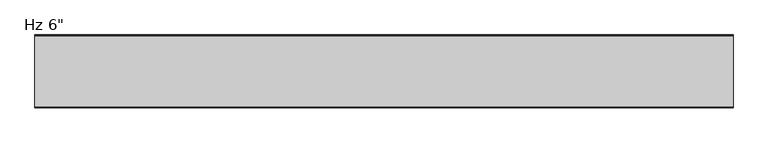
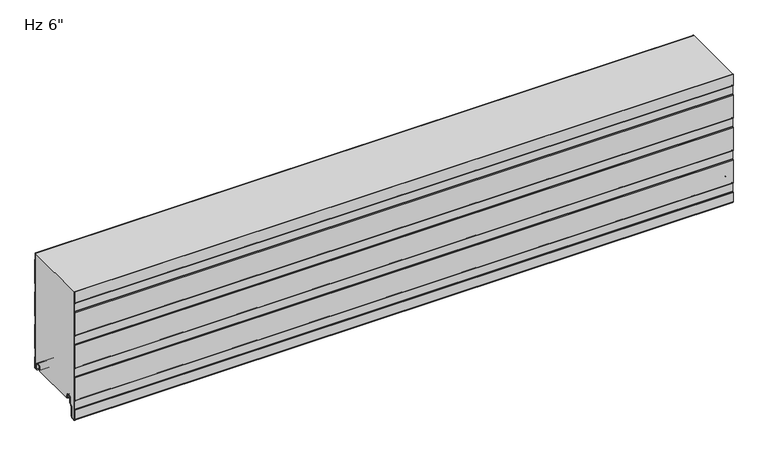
"""IFC4 building model written with IfcOpenShell, lengths in millimetres: plate geometry."""

from ifc_helpers import new_model, si_unit, point, frame, frame_2d, origin, place, context, project, spatial, polyline, circle_curve, trimmed, segment, composite_curve, outline, extrude, source, transform, mapped, element, save
from ifc_brep_helpers import plane_surface, cylinder_surface, revolved_surface, advanced_brep


def plate_6111810e(model_context):
    return source(origin(), model_context, "Body", "SolidModel", [
        advanced_brep(
        [(-730.0, -17.0015159, 2.0313088), (-730.0, -18.0015191, 1.0313116), (-730.0, -19.0015105, 2.0313088), (-730.0, -19.0015105, 6.0315125), (-730.0, -18.0015159, 6.0315125), (-730.0, -18.0015159, 8.7237223), (-730.0, -14.7015202, 12.023718), (-730.0, -10.301529, 12.023718), (-730.0, -7.0015335, 8.7237225), (-730.0, -7.0015335, -1.6962564), (-730.0, -5.2315393, -3.4662506), (-730.0, -0.9999916, -3.4662506), (-730.0, -0.9999916, 21.034026), (-730.0, -2.2002307, 22.4196686), (-730.0, -2.2002307, 41.7948349), (-730.0, -1.0, 43.1804679), (-730.0, -1.0, 97.2338833), (-730.0, -2.2002307, 98.6195162), (-730.0, -2.2002307, 117.9946825), (-730.0, -1.0, 119.3803155), (-730.0, -1.0, 173.4337309), (-730.0, -2.2002307, 174.8193638), (-730.0, -2.2002307, 194.1945301), (-730.0, -1.0, 195.5801631), (-730.0, -1.0, 249.6335785), (-730.0, -2.2002307, 251.0192114), (-730.0, -2.2002307, 266.4), (-730.0, -1.2002307, 266.4), (-730.0, -1.2002307, 251.3920919), (-730.0, -0.3417885, 250.4010442), (-730.0, 0.0, 249.4844273), (-730.0, 0.0, 195.7293142), (-730.0, -0.3417885, 194.8126973), (-730.0, -1.2002307, 193.8216497), (-730.0, -1.2002307, 175.1922443), (-730.0, -0.3417885, 174.2011966), (-730.0, 0.0, 173.2845797), (-730.0, 0.0, 119.5294666), (-730.0, -0.3417885, 118.6128497), (-730.0, -1.2002307, 117.6218021), (-730.0, -1.2002307, 98.9923967), (-730.0, -0.3417885, 98.001349), (-730.0, 0.0, 97.0847321), (-730.0, 0.0, 43.329619), (-730.0, -0.3417885, 42.4130021), (-730.0, -1.2002307, 41.4219545), (-730.0, -1.2002307, 22.7925491), (-730.0, -0.3417885, 21.8015014), (-730.0, 0.0, 20.8847931), (-730.0, 8.4e-06, -3.0662545), (-730.0, -1.3999878, -4.4662506), (-730.0, -5.2315393, -4.4662506), (-730.0, -8.0015335, -1.6962564), (-730.0, -8.0015335, 8.7237225), (-730.0, -10.301529, 11.023718), (-730.0, -14.7015202, 11.023718), (-730.0, -17.0015159, 8.7237223), (730.0, -17.0015159, 2.0313088), (730.0, -17.0015159, 8.7237223), (730.0, -14.7015202, 11.023718), (730.0, -10.301529, 11.023718), (730.0, -8.0015335, 8.7237225), (730.0, -8.0015335, -1.6962564), (730.0, -5.2315393, -4.4662506), (730.0, -1.3999878, -4.4662506), (730.0, 8.4e-06, -3.0662545), (730.0, 8.4e-06, 20.8848845), (730.0, -0.3417885, 21.8015014), (730.0, -1.2002307, 22.7925491), (730.0, -1.2002307, 41.4219545), (730.0, -0.3417885, 42.4130021), (730.0, 0.0, 43.329619), (730.0, 0.0, 97.0847321), (730.0, -0.3417885, 98.001349), (730.0, -1.2002307, 98.9923967), (730.0, -1.2002307, 117.6218021), (730.0, -0.3417885, 118.6128497), (730.0, 0.0, 119.5294666), (730.0, 0.0, 173.2845797), (730.0, -0.3417885, 174.2011966), (730.0, -1.2002307, 175.1922443), (730.0, -1.2002307, 193.8216497), (730.0, -0.3417885, 194.8126973), (730.0, 0.0, 195.7293142), (730.0, 0.0, 249.4844273), (730.0, -0.3417885, 250.4010442), (730.0, -1.2002307, 251.3920919), (730.0, -1.2002307, 266.4), (730.0, -2.2002307, 266.4), (730.0, -2.2002307, 251.0192114), (730.0, -1.0, 249.6335785), (730.0, -1.0, 195.5801631), (730.0, -2.2002307, 194.1945301), (730.0, -2.2002307, 174.8193638), (730.0, -1.0, 173.4337309), (730.0, -1.0, 119.3803155), (730.0, -2.2002307, 117.9946825), (730.0, -2.2002307, 98.6195162), (730.0, -1.0, 97.2338833), (730.0, -1.0, 43.1804679), (730.0, -2.2002307, 41.7948349), (730.0, -2.2002307, 22.4196686), (730.0, -0.9999916, 21.034026), (730.0, -0.9999916, -3.4662506), (730.0, -5.2315393, -3.4662506), (730.0, -7.0015335, -1.6962564), (730.0, -7.0015335, 8.7237225), (730.0, -10.301529, 12.023718), (730.0, -14.7015202, 12.023718), (730.0, -18.0015159, 8.7237223), (730.0, -18.0015159, 6.0315125), (730.0, -19.0015105, 6.0315125), (730.0, -19.0015105, 2.0313088), (730.0, -18.0015192, 1.0313116)],
        [
            (0, 1, circle_curve(frame((-730.0, -18.0015132, 2.0313088), z_axis=(-1.0, 0.0, 0.0), x_axis=(0.0, 0.0, 1.0)), 0.9999973)),
            (1, 2, circle_curve(frame((-730.0, -18.0015133, 2.0313088), z_axis=(-1.0, 0.0, 0.0), x_axis=(0.0, 0.0, 1.0)), 0.9999972)),
            (2, 3),
            (3, 4),
            (4, 5),
            (5, 6, circle_curve(frame((-730.0, -14.7015202, 8.7237223), z_axis=(-1.0, 0.0, 0.0), x_axis=(0.0, 0.0, 1.0)), 3.2999957)),
            (6, 7),
            (7, 8, circle_curve(frame((-730.0, -10.301529, 8.7237225), z_axis=(-1.0, 0.0, 0.0), x_axis=(0.0, 0.0, 1.0)), 3.2999955)),
            (8, 9),
            (9, 10, circle_curve(frame((-730.0, -5.2315393, -1.6962564), z_axis=(1.0, 0.0, 0.0), x_axis=(0.0, 0.0, 1.0)), 1.7699942)),
            (10, 11),
            (11, 12),
            (12, 13),
            (13, 14),
            (14, 15),
            (15, 16),
            (16, 17),
            (17, 18),
            (18, 19),
            (19, 20),
            (20, 21),
            (21, 22),
            (22, 23),
            (23, 24),
            (24, 25),
            (25, 26),
            (26, 27),
            (27, 28),
            (28, 29),
            (29, 30, circle_curve(frame((-730.0, -1.3999972, 249.4844273), z_axis=(-1.0, 0.0, 0.0), x_axis=(0.0, 0.0, 1.0)), 1.3999972)),
            (30, 31),
            (31, 32, circle_curve(frame((-730.0, -1.3999972, 195.7293142), z_axis=(-1.0, 0.0, 0.0), x_axis=(0.0, 0.0, 1.0)), 1.3999972)),
            (32, 33),
            (33, 34),
            (34, 35),
            (35, 36, circle_curve(frame((-730.0, -1.3999972, 173.2845797), z_axis=(-1.0, 0.0, 0.0), x_axis=(0.0, 0.0, 1.0)), 1.3999972)),
            (36, 37),
            (37, 38, circle_curve(frame((-730.0, -1.3999972, 119.5294666), z_axis=(-1.0, 0.0, 0.0), x_axis=(0.0, 0.0, 1.0)), 1.3999972)),
            (38, 39),
            (39, 40),
            (40, 41),
            (41, 42, circle_curve(frame((-730.0, -1.3999972, 97.0847321), z_axis=(-1.0, 0.0, 0.0), x_axis=(0.0, 0.0, 1.0)), 1.3999972)),
            (42, 43),
            (43, 44, circle_curve(frame((-730.0, -1.3999972, 43.329619), z_axis=(-1.0, 0.0, 0.0), x_axis=(0.0, 0.0, 1.0)), 1.3999972)),
            (44, 45),
            (45, 46),
            (46, 47),
            (47, 48, circle_curve(frame((-730.0, -1.3999972, 20.8848845), z_axis=(-1.0, 0.0, 0.0), x_axis=(0.0, 0.0, 1.0)), 1.3999972)),
            (48, 49),
            (49, 50, circle_curve(frame((-730.0, -1.3999878, -3.0662545), z_axis=(-1.0, 0.0, 0.0), x_axis=(0.0, 0.0, 1.0)), 1.3999962)),
            (50, 51),
            (51, 52, circle_curve(frame((-730.0, -5.2315393, -1.6962564), z_axis=(-1.0, 0.0, 0.0), x_axis=(0.0, 0.0, 1.0)), 2.7699942)),
            (52, 53),
            (53, 54, circle_curve(frame((-730.0, -10.301529, 8.7237225), z_axis=(1.0, 0.0, 0.0), x_axis=(0.0, 0.0, 1.0)), 2.2999955)),
            (54, 55),
            (55, 56, circle_curve(frame((-730.0, -14.7015202, 8.7237223), z_axis=(1.0, 0.0, 0.0), x_axis=(0.0, 0.0, 1.0)), 2.2999957)),
            (56, 0),
            (57, 58),
            (58, 59, circle_curve(frame((730.0, -14.7015202, 8.7237223), z_axis=(-1.0, 0.0, 0.0), x_axis=(0.0, 0.0, 1.0)), 2.2999957)),
            (59, 60),
            (60, 61, circle_curve(frame((730.0, -10.301529, 8.7237225), z_axis=(-1.0, 0.0, 0.0), x_axis=(0.0, 0.0, 1.0)), 2.2999955)),
            (61, 62),
            (62, 63, circle_curve(frame((730.0, -5.2315393, -1.6962564), z_axis=(1.0, 0.0, 0.0), x_axis=(0.0, 0.0, 1.0)), 2.7699942)),
            (63, 64),
            (64, 65, circle_curve(frame((730.0, -1.3999878, -3.0662545), z_axis=(1.0, 0.0, 0.0), x_axis=(0.0, 0.0, 1.0)), 1.3999962)),
            (65, 66),
            (66, 67, circle_curve(frame((730.0, -1.3999972, 20.8848845), z_axis=(1.0, 0.0, 0.0), x_axis=(0.0, 0.0, 1.0)), 1.3999972)),
            (67, 68),
            (68, 69),
            (69, 70),
            (70, 71, circle_curve(frame((730.0, -1.3999972, 43.329619), z_axis=(1.0, 0.0, 0.0), x_axis=(0.0, 0.0, 1.0)), 1.3999972)),
            (71, 72),
            (72, 73, circle_curve(frame((730.0, -1.3999972, 97.0847321), z_axis=(1.0, 0.0, 0.0), x_axis=(0.0, 0.0, 1.0)), 1.3999972)),
            (73, 74),
            (74, 75),
            (75, 76),
            (76, 77, circle_curve(frame((730.0, -1.3999972, 119.5294666), z_axis=(1.0, 0.0, 0.0), x_axis=(0.0, 0.0, 1.0)), 1.3999972)),
            (77, 78),
            (78, 79, circle_curve(frame((730.0, -1.3999972, 173.2845797), z_axis=(1.0, 0.0, 0.0), x_axis=(0.0, 0.0, 1.0)), 1.3999972)),
            (79, 80),
            (80, 81),
            (81, 82),
            (82, 83, circle_curve(frame((730.0, -1.3999972, 195.7293142), z_axis=(1.0, 0.0, 0.0), x_axis=(0.0, 0.0, 1.0)), 1.3999972)),
            (83, 84),
            (84, 85, circle_curve(frame((730.0, -1.3999972, 249.4844273), z_axis=(1.0, 0.0, 0.0), x_axis=(0.0, 0.0, 1.0)), 1.3999972)),
            (85, 86),
            (86, 87),
            (87, 88),
            (88, 89),
            (89, 90),
            (90, 91),
            (91, 92),
            (92, 93),
            (93, 94),
            (94, 95),
            (95, 96),
            (96, 97),
            (97, 98),
            (98, 99),
            (99, 100),
            (100, 101),
            (101, 102),
            (102, 103),
            (103, 104),
            (104, 105, circle_curve(frame((730.0, -5.2315393, -1.6962564), z_axis=(-1.0, 0.0, 0.0), x_axis=(0.0, 0.0, 1.0)), 1.7699942)),
            (105, 106),
            (106, 107, circle_curve(frame((730.0, -10.301529, 8.7237225), z_axis=(1.0, 0.0, 0.0), x_axis=(0.0, 0.0, 1.0)), 3.2999955)),
            (107, 108),
            (108, 109, circle_curve(frame((730.0, -14.7015202, 8.7237223), z_axis=(1.0, 0.0, 0.0), x_axis=(0.0, 0.0, 1.0)), 3.2999957)),
            (109, 110),
            (110, 111),
            (111, 112),
            (112, 113, circle_curve(frame((730.0, -18.0015133, 2.0313088), z_axis=(1.0, 0.0, 0.0), x_axis=(0.0, 0.0, 1.0)), 0.9999972)),
            (113, 57, circle_curve(frame((730.0, -18.0015132, 2.0313088), z_axis=(1.0, 0.0, 0.0), x_axis=(0.0, 0.0, 1.0)), 0.9999973)),
            (26, 88),
            (87, 27),
            (56, 58),
            (57, 0),
            (55, 59),
            (54, 60),
            (53, 61),
            (52, 62),
            (51, 63),
            (50, 64),
            (49, 65),
            (48, 66),
            (47, 67),
            (46, 68),
            (45, 69),
            (44, 70),
            (43, 71),
            (42, 72),
            (41, 73),
            (40, 74),
            (39, 75),
            (38, 76),
            (37, 77),
            (36, 78),
            (19, 95),
            (94, 20),
            (18, 96),
            (17, 97),
            (16, 98),
            (15, 99),
            (14, 100),
            (13, 101),
            (12, 102),
            (11, 103),
            (10, 104),
            (9, 105),
            (8, 106),
            (7, 107),
            (6, 108),
            (5, 109),
            (4, 110),
            (3, 111),
            (2, 112),
            (1, 113),
            (35, 79),
            (34, 80),
            (33, 81),
            (32, 82),
            (31, 83),
            (30, 84),
            (29, 85),
            (28, 86),
            (25, 89),
            (24, 90),
            (23, 91),
            (22, 92),
            (21, 93),
        ],
        [
            plane_surface(frame((-730.0, 0.0, 533.4), z_axis=(-1.0, 0.0, 0.0), x_axis=(0.0, 1.0, 0.0))),
            plane_surface(frame((730.0, 0.0, 533.4), z_axis=(1.0, 0.0, 0.0), x_axis=(0.0, 1.0, 0.0))),
            plane_surface(frame((730.0, 10.0, 266.4), z_axis=(0.0, 0.0, 1.0), x_axis=(-1.0, 0.0, 0.0))),
            plane_surface(frame((-730.0, -17.0015159, 2.0313088), z_axis=(0.0, 1.0, 0.0), x_axis=(1.0, 0.0, 0.0))),
            revolved_surface(polyline([(730.0, -14.7015202, 11.023718), (-730.0, -14.7015202, 11.023718)]), (-730.0, -14.7015202, 8.7237223), (1.0, 0.0, 0.0)),
            plane_surface(frame((-730.0, -14.7015202, 11.023718), z_axis=(0.0, 0.0, -1.0), x_axis=(1.0, 0.0, 0.0))),
            revolved_surface(polyline([(730.0, -10.301529, 11.023717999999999), (-730.0, -10.301529, 11.023717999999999)]), (-730.0, -10.301529, 8.7237225), (1.0, 0.0, 0.0)),
            plane_surface(frame((-730.0, -8.0015335, 8.7237225), z_axis=(0.0, -1.0, 0.0), x_axis=(1.0, 0.0, 0.0))),
            cylinder_surface(frame((-730.0, -5.2315393, -1.6962564), z_axis=(-1.0, 0.0, 0.0), x_axis=(0.0, 0.0, 1.0)), 2.7699942),
            plane_surface(frame((-730.0, -5.2315393, -4.4662506), z_axis=(0.0, 0.0, -1.0), x_axis=(1.0, 0.0, 0.0))),
            cylinder_surface(frame((-730.0, -1.3999878, -3.0662545), z_axis=(-1.0, 0.0, 0.0), x_axis=(0.0, 0.0, 1.0)), 1.3999962),
            plane_surface(frame((-730.0, 8.4e-06, -3.0662545), z_axis=(0.0, 1.0, 0.0), x_axis=(1.0, 0.0, 0.0))),
            cylinder_surface(frame((-730.0, -1.3999972, 20.8848845), z_axis=(-1.0, 0.0, 0.0), x_axis=(0.0, 0.0, 1.0)), 1.3999972),
            plane_surface(frame((-730.0, -0.3417885, 21.8015014), z_axis=(0.0, 0.755864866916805, 0.6547276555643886), x_axis=(1.0, 0.0, 0.0))),
            plane_surface(frame((-730.0, -1.2002307, 32.1072518), z_axis=(0.0, 1.0, 0.0), x_axis=(1.0, 0.0, 0.0))),
            plane_surface(frame((-730.0, -1.2002307, 41.4219545), z_axis=(0.0, 0.755864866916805, -0.6547276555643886), x_axis=(1.0, 0.0, 0.0))),
            cylinder_surface(frame((-730.0, -1.3999972, 43.329619), z_axis=(-1.0, 0.0, 0.0), x_axis=(0.0, 0.0, 1.0)), 1.3999972),
            plane_surface(frame((-730.0, 0.0, 43.329619), z_axis=(0.0, 1.0, 0.0), x_axis=(1.0, 0.0, 0.0))),
            cylinder_surface(frame((-730.0, -1.3999972, 97.0847321), z_axis=(-1.0, 0.0, 0.0), x_axis=(0.0, 0.0, 1.0)), 1.3999972),
            plane_surface(frame((-730.0, -0.3417885, 98.001349), z_axis=(0.0, 0.755864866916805, 0.6547276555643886), x_axis=(1.0, 0.0, 0.0))),
            plane_surface(frame((-730.0, -1.2002307, 108.3070994), z_axis=(0.0, 1.0, 0.0), x_axis=(1.0, 0.0, 0.0))),
            plane_surface(frame((-730.0, -1.2002307, 117.6218021), z_axis=(0.0, 0.755864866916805, -0.6547276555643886), x_axis=(1.0, 0.0, 0.0))),
            cylinder_surface(frame((-730.0, -1.3999972, 119.5294666), z_axis=(-1.0, 0.0, 0.0), x_axis=(0.0, 0.0, 1.0)), 1.3999972),
            plane_surface(frame((-730.0, 0.0, 119.5294666), z_axis=(0.0, 1.0, 0.0), x_axis=(1.0, 0.0, 0.0))),
            plane_surface(frame((-730.0, -1.0, 173.4337309), z_axis=(0.0, -1.0, 0.0), x_axis=(1.0, 0.0, 0.0))),
            plane_surface(frame((-730.0, -1.0, 119.3803155), z_axis=(0.0, -0.755864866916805, 0.6547276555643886), x_axis=(1.0, 0.0, 0.0))),
            plane_surface(frame((-730.0, -2.2002307, 117.9946825), z_axis=(0.0, -1.0, 0.0), x_axis=(1.0, 0.0, 0.0))),
            plane_surface(frame((-730.0, -2.2002307, 98.6195162), z_axis=(0.0, -0.755864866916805, -0.6547276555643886), x_axis=(1.0, 0.0, 0.0))),
            plane_surface(frame((-730.0, -1.0, 97.2338833), z_axis=(0.0, -1.0, 0.0), x_axis=(1.0, 0.0, 0.0))),
            plane_surface(frame((-730.0, -1.0, 43.1804679), z_axis=(0.0, -0.755864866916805, 0.6547276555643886), x_axis=(1.0, 0.0, 0.0))),
            plane_surface(frame((-730.0, -2.2002307, 41.7948349), z_axis=(0.0, -1.0, 0.0), x_axis=(1.0, 0.0, 0.0))),
            plane_surface(frame((-730.0, -2.2002307, 22.4196686), z_axis=(0.0, -0.755864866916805, -0.6547276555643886), x_axis=(1.0, 0.0, 0.0))),
            plane_surface(frame((-730.0, -0.9999916, 21.034026), z_axis=(0.0, -1.0, 0.0), x_axis=(1.0, 0.0, 0.0))),
            plane_surface(frame((-730.0, -0.9999916, -3.4662506), z_axis=(0.0, 0.0, 1.0), x_axis=(1.0, 0.0, 0.0))),
            revolved_surface(polyline([(730.0, -5.2315393, 0.07373779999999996), (-730.0, -5.2315393, 0.07373779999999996)]), (-730.0, -5.2315393, -1.6962564), (1.0, 0.0, 0.0)),
            plane_surface(frame((-730.0, -7.0015335, -1.6962564), z_axis=(0.0, 1.0, 0.0), x_axis=(1.0, 0.0, 0.0))),
            cylinder_surface(frame((-730.0, -10.301529, 8.7237225), z_axis=(-1.0, 0.0, 0.0), x_axis=(0.0, 0.0, 1.0)), 3.2999955),
            plane_surface(frame((-730.0, -10.301529, 12.023718), z_axis=(0.0, 0.0, 1.0), x_axis=(1.0, 0.0, 0.0))),
            cylinder_surface(frame((-730.0, -14.7015202, 8.7237223), z_axis=(-1.0, 0.0, 0.0), x_axis=(0.0, 0.0, 1.0)), 3.2999957),
            plane_surface(frame((-730.0, -18.0015159, 8.7237223), z_axis=(0.0, -1.0, 0.0), x_axis=(1.0, 0.0, 0.0))),
            plane_surface(frame((-730.0, -18.0015159, 6.0315125), z_axis=(0.0, 0.0, 1.0), x_axis=(1.0, 0.0, 0.0))),
            plane_surface(frame((-730.0, -19.0015105, 6.0315125), z_axis=(0.0, -1.0, 0.0), x_axis=(1.0, 0.0, 0.0))),
            cylinder_surface(frame((-730.0, -18.0015133, 2.0313088), z_axis=(-1.0, 0.0, 0.0), x_axis=(0.0, 0.0, 1.0)), 0.9999972),
            cylinder_surface(frame((-730.0, -18.0015132, 2.0313088), z_axis=(-1.0, 0.0, 0.0), x_axis=(0.0, 0.0, 1.0)), 0.9999973),
            cylinder_surface(frame((-730.0, -1.3999972, 173.2845797), z_axis=(-1.0, 0.0, 0.0), x_axis=(0.0, 0.0, 1.0)), 1.3999972),
            plane_surface(frame((-730.0, -0.3417885, 174.2011966), z_axis=(0.0, 0.755864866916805, 0.6547276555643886), x_axis=(1.0, 0.0, 0.0))),
            plane_surface(frame((-730.0, -1.2002307, 184.506947), z_axis=(0.0, 1.0, 0.0), x_axis=(1.0, 0.0, 0.0))),
            plane_surface(frame((-730.0, -1.2002307, 193.8216497), z_axis=(0.0, 0.755864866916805, -0.6547276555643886), x_axis=(1.0, 0.0, 0.0))),
            cylinder_surface(frame((-730.0, -1.3999972, 195.7293142), z_axis=(-1.0, 0.0, 0.0), x_axis=(0.0, 0.0, 1.0)), 1.3999972),
            plane_surface(frame((-730.0, 0.0, 195.7293142), z_axis=(0.0, 1.0, 0.0), x_axis=(1.0, 0.0, 0.0))),
            cylinder_surface(frame((-730.0, -1.3999972, 249.4844273), z_axis=(-1.0, 0.0, 0.0), x_axis=(0.0, 0.0, 1.0)), 1.3999972),
            plane_surface(frame((-730.0, -0.3417885, 250.4010442), z_axis=(0.0, 0.755864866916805, 0.6547276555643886), x_axis=(1.0, 0.0, 0.0))),
            plane_surface(frame((-730.0, -1.2002307, 260.7067946), z_axis=(0.0, 1.0, 0.0), x_axis=(1.0, 0.0, 0.0))),
            plane_surface(frame((-730.0, -2.2002307, 270.3943777), z_axis=(0.0, -1.0, 0.0), x_axis=(1.0, 0.0, 0.0))),
            plane_surface(frame((-730.0, -2.2002307, 251.0192114), z_axis=(0.0, -0.755864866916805, -0.6547276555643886), x_axis=(1.0, 0.0, 0.0))),
            plane_surface(frame((-730.0, -1.0, 249.6335785), z_axis=(0.0, -1.0, 0.0), x_axis=(1.0, 0.0, 0.0))),
            plane_surface(frame((-730.0, -1.0, 195.5801631), z_axis=(0.0, -0.755864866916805, 0.6547276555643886), x_axis=(1.0, 0.0, 0.0))),
            plane_surface(frame((-730.0, -2.2002307, 194.1945301), z_axis=(0.0, -1.0, 0.0), x_axis=(1.0, 0.0, 0.0))),
            plane_surface(frame((-730.0, -2.2002307, 174.8193638), z_axis=(0.0, -0.755864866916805, -0.6547276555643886), x_axis=(1.0, 0.0, 0.0))),
        ],
        [
            (0, [[1, 2, 3, 4, 5, 6, 7, 8, 9, 10, 11, 12, 13, 14, 15, 16, 17, 18, 19, 20, 21, 22, 23, 24, 25, 26, 27, 28, 29, 30, 31, 32, 33, 34, 35, 36, 37, 38, 39, 40, 41, 42, 43, 44, 45, 46, 47, 48, 49, 50, 51, 52, 53, 54, 55, 56, 57]]),
            (1, [[58, 59, 60, 61, 62, 63, 64, 65, 66, 67, 68, 69, 70, 71, 72, 73, 74, 75, 76, 77, 78, 79, 80, 81, 82, 83, 84, 85, 86, 87, 88, 89, 90, 91, 92, 93, 94, 95, 96, 97, 98, 99, 100, 101, 102, 103, 104, 105, 106, 107, 108, 109, 110, 111, 112, 113, 114]]),
            (2, [[115, -88, 116, -27]]),
            (3, [[117, -58, 118, -57]]),
            (4, [[119, -59, -117, -56]]),
            (5, [[120, -60, -119, -55]]),
            (6, [[121, -61, -120, -54]]),
            (7, [[122, -62, -121, -53]]),
            (8, [[123, -63, -122, -52]]),
            (9, [[124, -64, -123, -51]]),
            (10, [[125, -65, -124, -50]]),
            (11, [[126, -66, -125, -49]]),
            (12, [[127, -67, -126, -48]]),
            (13, [[128, -68, -127, -47]]),
            (14, [[129, -69, -128, -46]]),
            (15, [[130, -70, -129, -45]]),
            (16, [[131, -71, -130, -44]]),
            (17, [[132, -72, -131, -43]]),
            (18, [[133, -73, -132, -42]]),
            (19, [[134, -74, -133, -41]]),
            (20, [[135, -75, -134, -40]]),
            (21, [[136, -76, -135, -39]]),
            (22, [[137, -77, -136, -38]]),
            (23, [[138, -78, -137, -37]]),
            (24, [[139, -95, 140, -20]]),
            (25, [[141, -96, -139, -19]]),
            (26, [[142, -97, -141, -18]]),
            (27, [[143, -98, -142, -17]]),
            (28, [[144, -99, -143, -16]]),
            (29, [[145, -100, -144, -15]]),
            (30, [[146, -101, -145, -14]]),
            (31, [[147, -102, -146, -13]]),
            (32, [[148, -103, -147, -12]]),
            (33, [[149, -104, -148, -11]]),
            (34, [[150, -105, -149, -10]]),
            (35, [[151, -106, -150, -9]]),
            (36, [[152, -107, -151, -8]]),
            (37, [[153, -108, -152, -7]]),
            (38, [[154, -109, -153, -6]]),
            (39, [[155, -110, -154, -5]]),
            (40, [[156, -111, -155, -4]]),
            (41, [[157, -112, -156, -3]]),
            (42, [[158, -113, -157, -2]]),
            (43, [[-118, -114, -158, -1]]),
            (44, [[159, -79, -138, -36]]),
            (45, [[160, -80, -159, -35]]),
            (46, [[161, -81, -160, -34]]),
            (47, [[162, -82, -161, -33]]),
            (48, [[163, -83, -162, -32]]),
            (49, [[164, -84, -163, -31]]),
            (50, [[165, -85, -164, -30]]),
            (51, [[166, -86, -165, -29]]),
            (52, [[-28, -116, -87, -166]]),
            (53, [[-89, -115, -26, 167]]),
            (54, [[168, -90, -167, -25]]),
            (55, [[169, -91, -168, -24]]),
            (56, [[170, -92, -169, -23]]),
            (57, [[171, -93, -170, -22]]),
            (58, [[-140, -94, -171, -21]]),
        ],
    ),
        extrude(outline(composite_curve([segment(trimmed(circle_curve(frame_2d((-151.0007733, -10.6415934)), 1.3998661), [point((-152.4006394, -10.6415934))], [point((-151.9333971, -9.5976403))], False, "CARTESIAN"), True, "CONTINUOUS"), segment(polyline([(-151.9333971, -9.5976403), (-151.2006709, -8.8649141), (-151.2006709, 10.0260713), (-151.9336365, 10.7590369)]), True, "CONTINUOUS"), segment(trimmed(circle_curve(frame_2d((-151.0009253, 11.8030877)), 1.3999972), [point((-151.9336365, 10.7590369))], [point((-152.4009016, 11.810741))], False, "CARTESIAN"), True, "CONTINUOUS"), segment(polyline([(-152.4009016, 11.810741), (-152.4009016, 65.5582542)]), True, "CONTINUOUS"), segment(trimmed(circle_curve(frame_2d((-151.0009044, 65.5582542)), 1.3999972), [point((-152.4009016, 65.5582542))], [point((-151.9336156, 66.602305))], False, "CARTESIAN"), True, "CONTINUOUS"), segment(polyline([(-151.9336156, 66.602305), (-151.2006709, 67.3352497), (-151.2006709, 86.2259189), (-151.9336365, 86.9588845)]), True, "CONTINUOUS"), segment(trimmed(circle_curve(frame_2d((-151.0009253, 88.0029353)), 1.3999972), [point((-151.9336365, 86.9588845))], [point((-152.4009016, 88.0105886))], False, "CARTESIAN"), True, "CONTINUOUS"), segment(polyline([(-152.4009016, 88.0105886), (-152.4009016, 141.7581018)]), True, "CONTINUOUS"), segment(trimmed(circle_curve(frame_2d((-151.0009044, 141.7581018)), 1.3999972), [point((-152.4009016, 141.7581018))], [point((-151.9336156, 142.8021526))], False, "CARTESIAN"), True, "CONTINUOUS"), segment(polyline([(-151.9336156, 142.8021526), (-151.2006709, 143.5350973), (-151.2006709, 162.4257665), (-151.9336365, 163.1587321)]), True, "CONTINUOUS"), segment(trimmed(circle_curve(frame_2d((-151.0009253, 164.2027829)), 1.3999972), [point((-151.9336365, 163.1587321))], [point((-152.4009016, 164.2104362))], False, "CARTESIAN"), True, "CONTINUOUS"), segment(polyline([(-152.4009016, 164.2104362), (-152.4009016, 217.9579494)]), True, "CONTINUOUS"), segment(trimmed(circle_curve(frame_2d((-151.0009044, 217.9579494)), 1.3999972), [point((-152.4009016, 217.9579494))], [point((-151.9336156, 219.0020002))], False, "CARTESIAN"), True, "CONTINUOUS"), segment(polyline([(-151.9336156, 219.0020002), (-151.2006709, 219.7349449), (-151.2006709, 238.6256141), (-151.9336365, 239.3585797)]), True, "CONTINUOUS"), segment(trimmed(circle_curve(frame_2d((-151.0009253, 240.4026305)), 1.3999972), [point((-151.9336365, 239.3585797))], [point((-152.4009016, 240.4102838))], False, "CARTESIAN"), True, "CONTINUOUS"), segment(polyline([(-152.4009016, 240.4102838), (-152.4009016, 266.4), (-151.4009016, 266.4), (-151.4009016, 240.2405326), (-150.2006709, 239.0403019), (-150.2006709, 219.3208894), (-151.4009016, 218.1206587), (-151.4009016, 164.0405269), (-150.2006709, 162.8402962), (-150.2006709, 143.1208837), (-151.4009016, 141.920653), (-151.4009016, 87.8405213), (-150.2006709, 86.6402905), (-150.2006709, 66.920878), (-151.4009016, 65.7206473), (-151.4009016, 11.6405156), (-150.2006709, 10.4402849), (-150.2006709, -9.2791277), (-151.4006394, -10.4790962), (-151.4006394, -32.4521176)]), True, "CONTINUOUS"), segment(trimmed(circle_curve(frame_2d((-148.8304001, -32.4521176)), 2.5702393), [point((-151.4006394, -32.4521176))], [point((-148.6063145, -35.0125699))], True, "CARTESIAN"), True, "CONTINUOUS"), segment(polyline([(-148.6063145, -35.0125699), (-143.6244936, -34.5765709)]), True, "CONTINUOUS"), segment(trimmed(circle_curve(frame_2d((-144.1058842, -31.9198392)), 2.6999926), [point((-143.6244936, -34.5765709))], [point((-141.4058916, -31.9198392))], True, "CARTESIAN"), True, "CONTINUOUS"), segment(polyline([(-141.4058916, -31.9198392), (-141.4058916, -9.8247096), (-135.9038205, -4.3226385)]), True, "CONTINUOUS"), segment(trimmed(circle_curve(frame_2d((-137.1058982, -3.1205608)), 1.6999946), [point((-135.9038205, -4.3226385))], [point((-135.4059036, -3.1205608))], True, "CARTESIAN"), True, "CONTINUOUS"), segment(polyline([(-135.4059036, -3.1205608), (-135.4059036, 8.6903283)]), True, "CONTINUOUS"), segment(trimmed(circle_curve(frame_2d((-132.0559083, 8.6903283)), 3.3499953), [point((-135.4059036, 8.6903283))], [point((-132.0559083, 12.0403236))], False, "CARTESIAN"), True, "CONTINUOUS"), segment(polyline([(-132.0559083, 12.0403236), (-127.6559171, 12.0403236)]), True, "CONTINUOUS"), segment(trimmed(circle_curve(frame_2d((-127.6559171, 8.6903283)), 3.3499953), [point((-127.6559171, 12.0403236))], [point((-124.3059218, 8.6903283))], False, "CARTESIAN"), True, "CONTINUOUS"), segment(polyline([(-124.3059218, 8.6903283), (-124.3059218, 5.9912173), (-122.9074429, 5.9912173), (-122.9074429, 2.2328239)]), True, "CONTINUOUS"), segment(trimmed(circle_curve(frame_2d((-124.1074396, 2.2313092)), 1.1999976), [point((-122.9074429, 2.2328239))], [point((-124.0769177, 1.0316999))], False, "CARTESIAN"), True, "CONTINUOUS"), segment(trimmed(circle_curve(frame_2d((-124.1074396, 2.2313092)), 1.1999976), [point((-124.0769177, 1.0316999))], [point((-125.3059218, 2.1710221))], False, "CARTESIAN"), True, "CONTINUOUS"), segment(polyline([(-125.3059218, 2.1710221), (-125.3059218, 8.6903283)]), True, "CONTINUOUS"), segment(trimmed(circle_curve(frame_2d((-127.6559171, 8.6903283)), 2.3499953), [point((-125.3059218, 8.6903283))], [point((-127.6559171, 11.0403236))], True, "CARTESIAN"), True, "CONTINUOUS"), segment(polyline([(-127.6559171, 11.0403236), (-132.0559083, 11.0403236)]), True, "CONTINUOUS"), segment(trimmed(circle_curve(frame_2d((-132.0559083, 8.6903283)), 2.3499953), [point((-132.0559083, 11.0403236))], [point((-134.4059036, 8.6903283))], True, "CARTESIAN"), True, "CONTINUOUS"), segment(polyline([(-134.4059036, 8.6903283), (-134.4059036, -3.1205608)]), True, "CONTINUOUS"), segment(trimmed(circle_curve(frame_2d((-137.1058982, -3.1205608)), 2.6999946), [point((-134.4059036, -3.1205608))], [point((-135.1967137, -5.0297453))], False, "CARTESIAN"), True, "CONTINUOUS"), segment(polyline([(-135.1967137, -5.0297453), (-140.0251312, -9.8581627)]), True, "CONTINUOUS"), segment(trimmed(circle_curve(frame_2d((-139.1058942, -10.7773997)), 1.2999974), [point((-140.0251312, -9.8581627))], [point((-140.4058916, -10.7773997))], True, "CARTESIAN"), True, "CONTINUOUS"), segment(polyline([(-140.4058916, -10.7773997), (-140.4058916, -31.9198392)]), True, "CONTINUOUS"), segment(trimmed(circle_curve(frame_2d((-144.1058842, -31.9198392)), 3.6999926), [point((-140.4058916, -31.9198392))], [point((-143.4950831, -35.5690675))], False, "CARTESIAN"), True, "CONTINUOUS"), segment(polyline([(-143.4950831, -35.5690675), (-148.5191297, -36.008762)]), True, "CONTINUOUS"), segment(trimmed(circle_curve(frame_2d((-148.8304001, -32.4521176)), 3.5702393), [point((-148.5191297, -36.008762))], [point((-152.4006394, -32.4521176))], False, "CARTESIAN"), True, "CONTINUOUS"), segment(polyline([(-152.4006394, -32.4521176), (-152.4006394, -10.6415934)]), True, "CONTINUOUS")], self_intersect=False)), frame((-730.0, 0.0, 0.0), z_axis=(1.0, 0.0, 0.0), x_axis=(0.0, 1.0, 0.0)), (0.0, 0.0, 1.0), 1460.0),
        extrude(outline(composite_curve([segment(trimmed(circle_curve(frame_2d((-124.1013969, 2.2313092)), 1.1999976), [point((-124.070875, 1.0316999))], [point((-122.9014003, 2.2328239))], True, "CARTESIAN"), True, "CONTINUOUS"), segment(polyline([(-122.9014003, 2.2328239), (-122.9014003, 5.9912173), (-124.2998791, 5.9912173), (-124.2998791, 8.6903283)]), True, "CONTINUOUS"), segment(trimmed(circle_curve(frame_2d((-127.6498744, 8.6903283)), 3.3499953), [point((-124.2998791, 8.6903283))], [point((-127.6498744, 12.0403236))], True, "CARTESIAN"), True, "CONTINUOUS"), segment(polyline([(-127.6498744, 12.0403236), (-132.0498656, 12.0403236)]), True, "CONTINUOUS"), segment(trimmed(circle_curve(frame_2d((-132.0498656, 8.6903283)), 3.3499953), [point((-132.0498656, 12.0403236))], [point((-135.3998609, 8.6903283))], True, "CARTESIAN"), True, "CONTINUOUS"), segment(polyline([(-135.3998609, 8.6903283), (-135.3998609, -3.1205608)]), True, "CONTINUOUS"), segment(trimmed(circle_curve(frame_2d((-137.0998555, -3.1205608)), 1.6999946), [point((-135.3998609, -3.1205608))], [point((-135.8977778, -4.3226385))], False, "CARTESIAN"), True, "CONTINUOUS"), segment(polyline([(-135.8977778, -4.3226385), (-141.3998489, -9.8247096), (-141.3998489, -31.9198392)]), True, "CONTINUOUS"), segment(trimmed(circle_curve(frame_2d((-144.0998415, -31.9198392)), 2.6999926), [point((-141.3998489, -31.9198392))], [point((-143.6184509, -34.5765709))], False, "CARTESIAN"), True, "CONTINUOUS"), segment(polyline([(-143.6184509, -34.5765709), (-148.6002718, -35.0125699)]), True, "CONTINUOUS"), segment(trimmed(circle_curve(frame_2d((-148.8243575, -32.4521176)), 2.5702393), [point((-148.6002718, -35.0125699))], [point((-151.3945967, -32.4521176))], False, "CARTESIAN"), True, "CONTINUOUS"), segment(polyline([(-151.3945967, -32.4521176), (-151.3945967, -10.4790962), (-150.1946282, -9.2791277), (-150.1946282, 10.4402849), (-151.3948589, 11.6405156), (-151.3948589, 65.7206473), (-150.1946282, 66.920878), (-150.1946282, 86.6402905), (-151.3948589, 87.8405213), (-151.3948589, 141.920653), (-150.1946282, 143.1208837), (-150.1946282, 162.8402962), (-151.3948589, 164.0405269), (-151.3948589, 218.1206587), (-150.1946282, 219.3208894), (-150.1946282, 239.0403019), (-151.3948589, 240.2405326), (-151.3948589, 266.4), (-2.2002307, 266.4), (-2.2002307, 251.0192115), (-1.0, 249.6335785), (-1.0, 195.5801631), (-2.2002307, 194.1945302), (-2.2002307, 174.8193639), (-1.0, 173.4337309), (-1.0, 119.3803155), (-2.2002307, 117.9946826), (-2.2002307, 98.6195163), (-1.0, 97.2338833), (-1.0, 43.1804679), (-2.2002307, 41.794835), (-2.2002307, 22.4196687), (-0.9999916, 21.034026), (-0.9999916, -3.4662506), (-5.2315389, -3.4662506)]), True, "CONTINUOUS"), segment(trimmed(circle_curve(frame_2d((-5.2315389, -1.6962564)), 1.7699942), [point((-5.2315389, -3.4662506))], [point((-7.0015331, -1.6962564))], False, "CARTESIAN"), True, "CONTINUOUS"), segment(polyline([(-7.0015331, -1.6962564), (-7.0015331, 8.7237222)]), True, "CONTINUOUS"), segment(trimmed(circle_curve(frame_2d((-10.301529, 8.7237222)), 3.2999959), [point((-7.0015331, 8.7237222))], [point((-10.301529, 12.023718))], True, "CARTESIAN"), True, "CONTINUOUS"), segment(polyline([(-10.301529, 12.023718), (-14.7015202, 12.023718)]), True, "CONTINUOUS"), segment(trimmed(circle_curve(frame_2d((-14.7015202, 8.7237223)), 3.2999957), [point((-14.7015202, 12.023718))], [point((-18.0015159, 8.7237223))], True, "CARTESIAN"), True, "CONTINUOUS"), segment(polyline([(-18.0015159, 8.7237223), (-18.0015159, 6.0315125), (-19.0015105, 6.0315125), (-19.0015105, 2.0313089)]), True, "CONTINUOUS"), segment(trimmed(circle_curve(frame_2d((-18.0015133, 2.0313089)), 0.9999972), [point((-19.0015105, 2.0313089))], [point((-18.0015192, 1.0313117))], True, "CARTESIAN"), True, "CONTINUOUS"), segment(polyline([(-18.0015192, 1.0313117), (-19.0328308, 0.0), (-123.0391751, 0.0), (-124.070875, 1.0316999)]), True, "CONTINUOUS")], self_intersect=False)), frame((-730.0, 0.0, 0.0), z_axis=(1.0, 0.0, 0.0), x_axis=(0.0, 1.0, 0.0)), (0.0, 0.0, 1.0), 1460.0),
    ])


if __name__ == "__main__":
    model = new_model("IFC4")
    model_context = context("Model", 3, world=origin())
    ifc_project = project(units=[si_unit("LENGTHUNIT", "METRE", prefix="MILLI")], contexts=[model_context])
    site = spatial("IfcSite", under=ifc_project)
    building = spatial("IfcBuilding", under=site)
    placement = place(None, origin())
    plate_shape = plate_6111810e(model_context)
    element("IfcPlate", 1, ObjectType="KIP-42-Karrier-KP-R19-CP-Hz-SL3-8in_SL : Hz 6\"", at=placement, inside=building, context=model_context, shape_type="MappedRepresentation", body=[
        mapped(plate_shape, transform((0.0, 0.0, 0.0), x_axis=(1.0, 0.0, 0.0), y_axis=(0.0, 1.0, 0.0), z_axis=(0.0, 0.0, 1.0))),
    ])
    save(model, "model.ifc")
